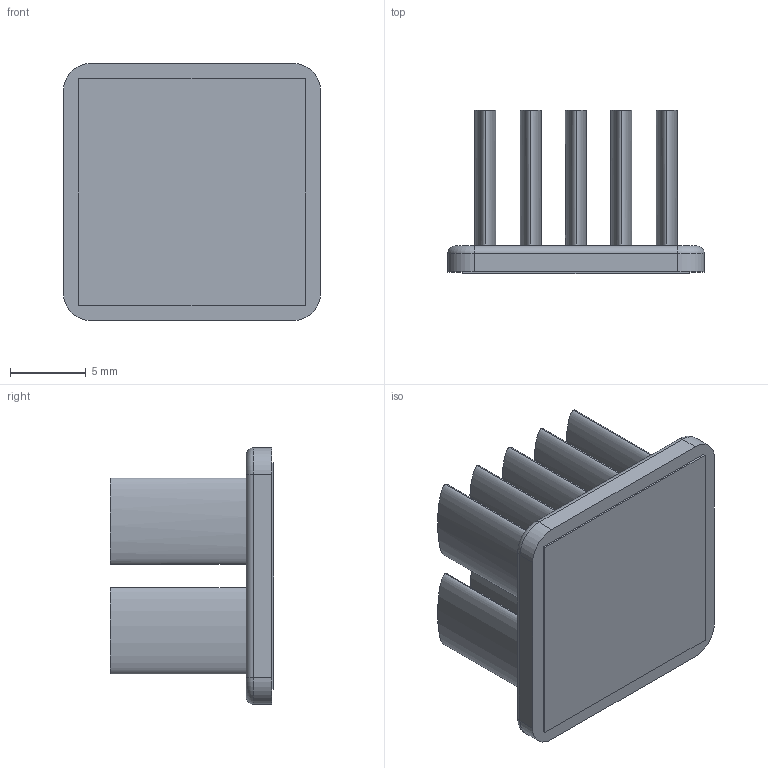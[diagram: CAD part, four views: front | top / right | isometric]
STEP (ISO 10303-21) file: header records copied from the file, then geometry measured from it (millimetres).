
FILE_DESCRIPTION (( 'STEP AP214' ), '1' );
FILE_NAME ('INM17001-11W-1.7.STEP', '2023-03-01T22:58:49', ( '' ), ( '' ), 'SwSTEP 2.0', 'SolidWorks 2020', '' );
FILE_SCHEMA (( 'AUTOMOTIVE_DESIGN' ));
Length unit declared in the file: millimetre
Products named in the file (1): INM17001-11W-1.7
Bounding box: 17 x 10.83 x 17 mm (x, y, z)
Volume: 1075.8 mm3; surface area: 2224.4 mm2
Topology: 2 solids, 2 shells, 54 faces, 112 edges, 72 vertices
Faces by surface type: plane 22, bspline 20, cylinder 8, torus 4
Entity records: 2109 total; most frequent: CARTESIAN_POINT 499, ORIENTED_EDGE 224, DIRECTION 162, EDGE_CURVE 112, VERTEX_POINT 72, EDGE_LOOP 64, UNCERTAINTY_MEASURE_WITH_UNIT 58, STYLED_ITEM 57
